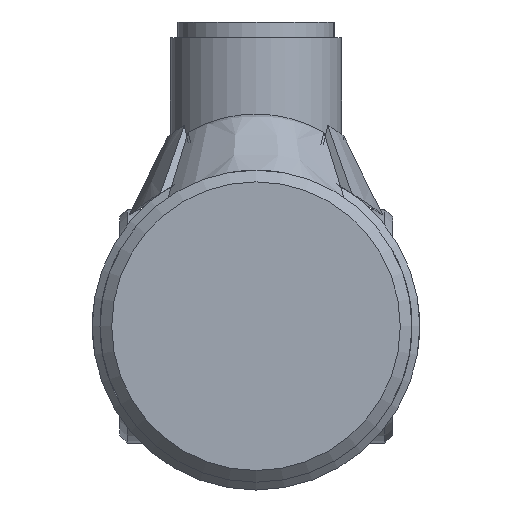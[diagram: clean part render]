
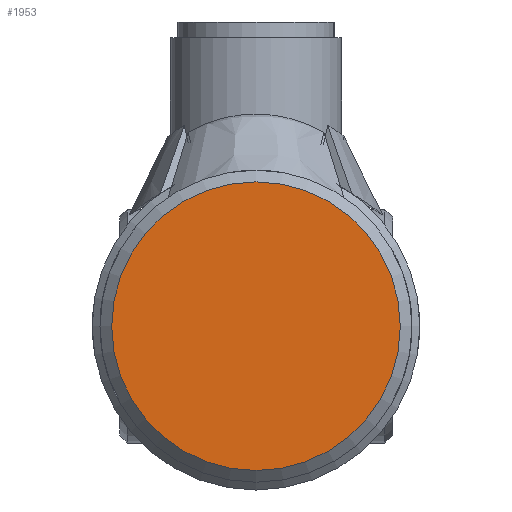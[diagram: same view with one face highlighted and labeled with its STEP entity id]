
A CAD part, left-side view. The second image highlights one B-rep face of the part: STEP entity #1953.
In plain terms, the highlighted planar face has unit normal (-1, 0, 0).
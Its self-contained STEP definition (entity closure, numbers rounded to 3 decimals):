
#1953 = ADVANCED_FACE( '', ( #8677 ), #8678, .T. );
#8677 = FACE_OUTER_BOUND( '', #9993, .T. );
#8678 = PLANE( '', #9994 );
#9993 = EDGE_LOOP( '', ( #10547 ) );
#9994 = AXIS2_PLACEMENT_3D( '', #10548, #10549, #10550 );
#10547 = ORIENTED_EDGE( '', *, *, #11359, .T. );
#10548 = CARTESIAN_POINT( '', ( -40., 0., 0. ) );
#10549 = DIRECTION( '', ( -1., 0., 0. ) );
#10550 = DIRECTION( '', ( 0., -1., 0. ) );
#11359 = EDGE_CURVE( '', #13778, #13778, #13779, .T. );
#13778 = VERTEX_POINT( '', #14646 );
#13779 = CIRCLE( '', #14647, 18.5 );
#14646 = CARTESIAN_POINT( '', ( -40., -18.5, 0. ) );
#14647 = AXIS2_PLACEMENT_3D( '', #14768, #14769, #14770 );
#14768 = CARTESIAN_POINT( '', ( -40., 0., 0. ) );
#14769 = DIRECTION( '', ( -1., 0., 0. ) );
#14770 = DIRECTION( '', ( 0., -1., 0. ) );
